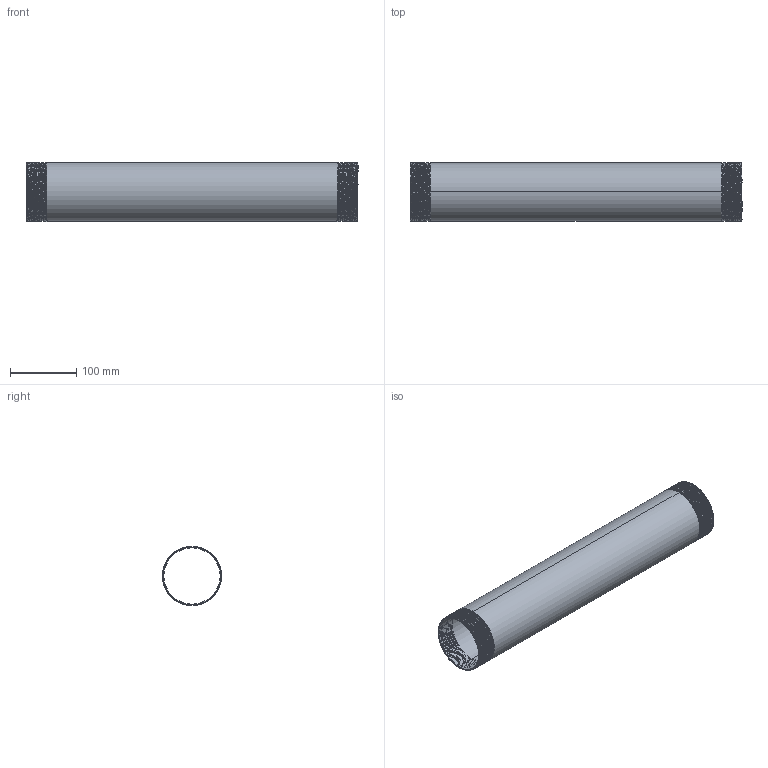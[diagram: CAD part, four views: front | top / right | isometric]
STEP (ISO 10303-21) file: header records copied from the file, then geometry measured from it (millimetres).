
FILE_DESCRIPTION (( 'STEP AP203' ), '1' );
FILE_NAME ('3D_R210_3x500_17191550.STEP', '2024-08-16T14:46:04', ( '' ), ( '' ), 'SwSTEP 2.0', 'SolidWorks 2024', '' );
FILE_SCHEMA (( 'CONFIG_CONTROL_DESIGN' ));
Length unit declared in the file: millimetre
Products named in the file (1): 3D_R210_3x500_17191550
Bounding box: 500 x 88.88 x 88.9 mm (x, y, z)
Volume: 262174.1 mm3; surface area: 283198.3 mm2
Topology: 1 solids, 1 shells, 80 faces, 228 edges, 150 vertices
Faces by surface type: cone 66, bspline 6, cylinder 4, plane 4
Entity records: 16579 total; most frequent: CARTESIAN_POINT 14717, ORIENTED_EDGE 456, DIRECTION 248, EDGE_CURVE 228, VERTEX_POINT 150, B_SPLINE_CURVE_WITH_KNOTS 134, AXIS2_PLACEMENT_3D 87, EDGE_LOOP 82
